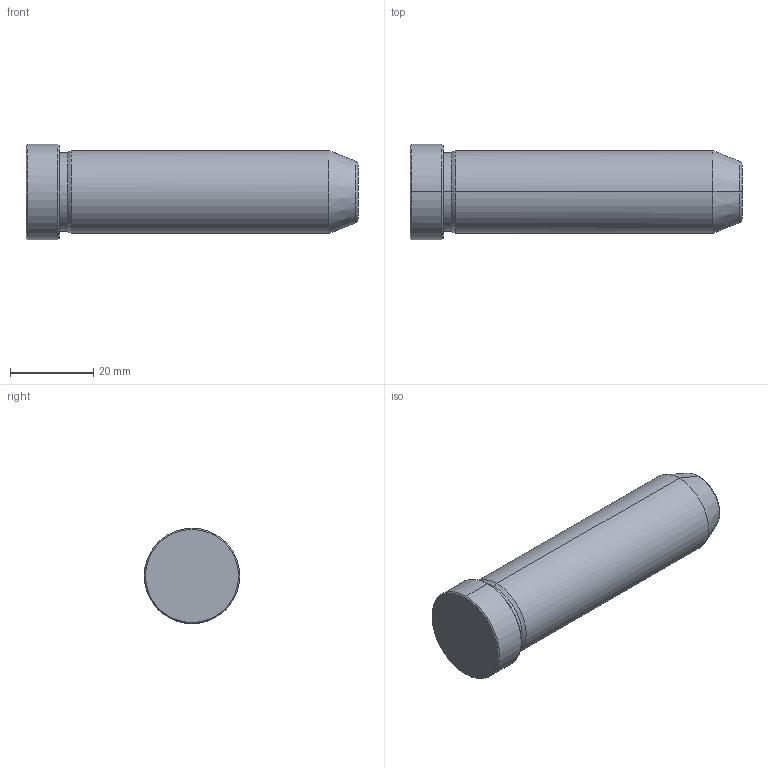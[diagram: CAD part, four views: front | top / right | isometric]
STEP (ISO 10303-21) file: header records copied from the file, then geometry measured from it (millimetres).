
FILE_DESCRIPTION(('CATIA V5 STEP Exchange'),'2;1');
FILE_NAME('C:\Users\Utente\Desktop\IO LAVORO\3D X SITO CF\X SITO\PLASTICA\549\549-20X80.stp','2021-12-11T09:55:13+00:00',('none'),('none'),'CATIA Version 5 Release 20 GA (IN-10)','CATIA V5 STEP AP203','none');
FILE_SCHEMA(('CONFIG_CONTROL_DESIGN'));
Length unit declared in the file: millimetre
Products named in the file (1): 549-20X80
Bounding box: 80 x 23 x 23 mm (x, y, z)
Volume: 25295.3 mm3; surface area: 5745.8 mm2
Topology: 1 solids, 1 shells, 19 faces, 56 edges, 40 vertices
Faces by surface type: cone 8, cylinder 6, plane 3, torus 2
Entity records: 736 total; most frequent: CARTESIAN_POINT 192, ORIENTED_EDGE 112, DIRECTION 86, EDGE_CURVE 56, AXIS2_PLACEMENT_3D 54, VERTEX_POINT 40, CIRCLE 34, EDGE_LOOP 20
